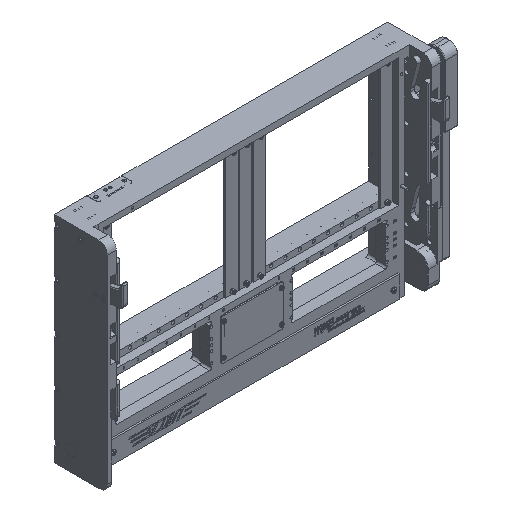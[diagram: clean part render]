
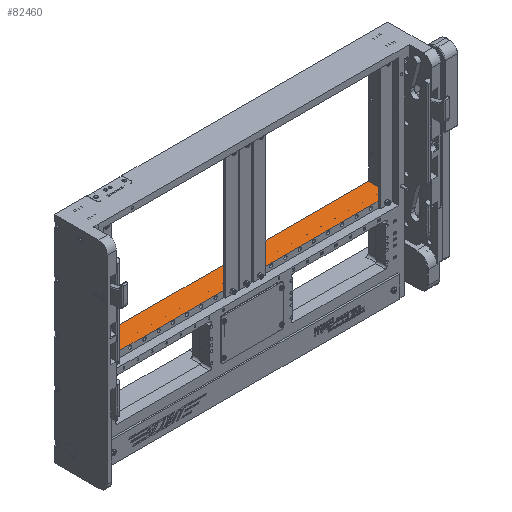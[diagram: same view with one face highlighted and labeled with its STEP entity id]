
A CAD part, isometric view. The second image highlights one B-rep face of the part: STEP entity #82460.
In plain terms, the highlighted planar face has unit normal (0, 0, 1).
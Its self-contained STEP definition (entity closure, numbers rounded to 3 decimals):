
#7651=PLANE('',#86696);
#11526=FACE_OUTER_BOUND('',#16614,.T.);
#16614=EDGE_LOOP('',(#68263,#68264,#68265,#68266,#68267,#68268,#68269,#68270,
#68271,#68272,#68273,#68274,#68275,#68276));
#19039=LINE('',#106724,#25533);
#19057=LINE('',#106764,#25551);
#19075=LINE('',#106802,#25569);
#19093=LINE('',#106838,#25587);
#19111=LINE('',#106876,#25605);
#21310=LINE('',#120085,#27804);
#21707=LINE('',#124203,#28201);
#24098=LINE('',#140786,#30592);
#24099=LINE('',#140787,#30593);
#24100=LINE('',#140788,#30594);
#24101=LINE('',#140789,#30595);
#24102=LINE('',#140790,#30596);
#24103=LINE('',#140791,#30597);
#24104=LINE('',#140792,#30598);
#25533=VECTOR('',#89787,0.717);
#25551=VECTOR('',#89821,0.717);
#25569=VECTOR('',#89853,0.717);
#25587=VECTOR('',#89883,0.717);
#25605=VECTOR('',#89915,0.717);
#27804=VECTOR('',#94202,1.273);
#28201=VECTOR('',#95381,1.273);
#30592=VECTOR('',#99806,0.014);
#30593=VECTOR('',#99807,16.8);
#30594=VECTOR('',#99808,0.015);
#30595=VECTOR('',#99809,6.531);
#30596=VECTOR('',#99810,0.062);
#30597=VECTOR('',#99811,0.061);
#30598=VECTOR('',#99812,6.531);
#33676=VERTEX_POINT('',#106694);
#33684=VERTEX_POINT('',#106714);
#33689=VERTEX_POINT('',#106732);
#33697=VERTEX_POINT('',#106752);
#33703=VERTEX_POINT('',#106772);
#33711=VERTEX_POINT('',#106792);
#33716=VERTEX_POINT('',#106810);
#33724=VERTEX_POINT('',#106830);
#33728=VERTEX_POINT('',#106846);
#33736=VERTEX_POINT('',#106866);
#36381=VERTEX_POINT('',#120082);
#36382=VERTEX_POINT('',#120084);
#36783=VERTEX_POINT('',#124200);
#36784=VERTEX_POINT('',#124202);
#41327=EDGE_CURVE('',#33676,#33684,#19039,.T.);
#41347=EDGE_CURVE('',#33689,#33697,#19057,.T.);
#41366=EDGE_CURVE('',#33703,#33711,#19075,.T.);
#41384=EDGE_CURVE('',#33716,#33724,#19093,.T.);
#41403=EDGE_CURVE('',#33728,#33736,#19111,.T.);
#45042=EDGE_CURVE('',#36382,#36381,#21310,.T.);
#45656=EDGE_CURVE('',#36783,#36784,#21707,.T.);
#49407=EDGE_CURVE('',#36784,#33716,#24098,.T.);
#49408=EDGE_CURVE('',#36783,#36382,#24099,.T.);
#49409=EDGE_CURVE('',#33736,#36381,#24100,.T.);
#49410=EDGE_CURVE('',#33697,#33728,#24101,.T.);
#49411=EDGE_CURVE('',#33711,#33689,#24102,.T.);
#49412=EDGE_CURVE('',#33684,#33703,#24103,.T.);
#49413=EDGE_CURVE('',#33724,#33676,#24104,.T.);
#68263=ORIENTED_EDGE('',*,*,#49407,.F.);
#68264=ORIENTED_EDGE('',*,*,#45656,.F.);
#68265=ORIENTED_EDGE('',*,*,#49408,.T.);
#68266=ORIENTED_EDGE('',*,*,#45042,.T.);
#68267=ORIENTED_EDGE('',*,*,#49409,.F.);
#68268=ORIENTED_EDGE('',*,*,#41403,.F.);
#68269=ORIENTED_EDGE('',*,*,#49410,.F.);
#68270=ORIENTED_EDGE('',*,*,#41347,.F.);
#68271=ORIENTED_EDGE('',*,*,#49411,.F.);
#68272=ORIENTED_EDGE('',*,*,#41366,.F.);
#68273=ORIENTED_EDGE('',*,*,#49412,.F.);
#68274=ORIENTED_EDGE('',*,*,#41327,.F.);
#68275=ORIENTED_EDGE('',*,*,#49413,.F.);
#68276=ORIENTED_EDGE('',*,*,#41384,.F.);
#82460=ADVANCED_FACE('',(#11526),#7651,.T.);
#86696=AXIS2_PLACEMENT_3D('',#140785,#99804,#99805);
#89787=DIRECTION('',(-1.,0.,0.));
#89821=DIRECTION('',(-1.,0.,0.));
#89853=DIRECTION('',(-1.,0.,0.));
#89883=DIRECTION('',(-1.,0.,0.));
#89915=DIRECTION('',(-1.,0.,0.));
#94202=DIRECTION('',(0.,-1.,0.));
#95381=DIRECTION('',(0.,-1.,0.));
#99804=DIRECTION('center_axis',(0.,0.,
1.));
#99805=DIRECTION('ref_axis',(0.,-1.,0.));
#99806=DIRECTION('',(-1.,0.,0.));
#99807=DIRECTION('',(-1.,0.,0.));
#99808=DIRECTION('',(-1.,0.,0.));
#99809=DIRECTION('',(-1.,0.,0.));
#99810=DIRECTION('',(-1.,0.,0.));
#99811=DIRECTION('',(-1.,0.,0.));
#99812=DIRECTION('',(-1.,0.,0.));
#106694=CARTESIAN_POINT('',(10.637,0.45,4.95));
#106714=CARTESIAN_POINT('',(9.92,0.45,4.95));
#106724=CARTESIAN_POINT('',(17.9,0.45,4.95));
#106732=CARTESIAN_POINT('',(9.08,0.45,4.95));
#106752=CARTESIAN_POINT('',(8.363,0.45,4.95));
#106764=CARTESIAN_POINT('',(17.9,0.45,4.95));
#106772=CARTESIAN_POINT('',(9.859,0.45,4.95));
#106792=CARTESIAN_POINT('',(9.142,0.45,4.95));
#106802=CARTESIAN_POINT('',(17.9,0.45,4.95));
#106810=CARTESIAN_POINT('',(17.886,0.45,4.95));
#106830=CARTESIAN_POINT('',(17.169,0.45,4.95));
#106838=CARTESIAN_POINT('',(17.9,0.45,4.95));
#106846=CARTESIAN_POINT('',(1.832,0.45,4.95));
#106866=CARTESIAN_POINT('',(1.115,0.45,4.95));
#106876=CARTESIAN_POINT('',(17.9,0.45,4.95));
#120082=CARTESIAN_POINT('',(1.1,0.45,4.95));
#120084=CARTESIAN_POINT('',(1.1,1.723,4.95));
#120085=CARTESIAN_POINT('',(1.1,1.723,4.95));
#124200=CARTESIAN_POINT('',(17.9,1.723,4.95));
#124202=CARTESIAN_POINT('',(17.9,0.45,4.95));
#124203=CARTESIAN_POINT('',(17.9,1.723,4.95));
#140785=CARTESIAN_POINT('Origin',(17.9,1.723,4.95));
#140786=CARTESIAN_POINT('',(17.9,0.45,4.95));
#140787=CARTESIAN_POINT('',(17.9,1.723,4.95));
#140788=CARTESIAN_POINT('',(17.9,0.45,4.95));
#140789=CARTESIAN_POINT('',(17.9,0.45,4.95));
#140790=CARTESIAN_POINT('',(17.9,0.45,4.95));
#140791=CARTESIAN_POINT('',(17.9,0.45,4.95));
#140792=CARTESIAN_POINT('',(17.9,0.45,4.95));
